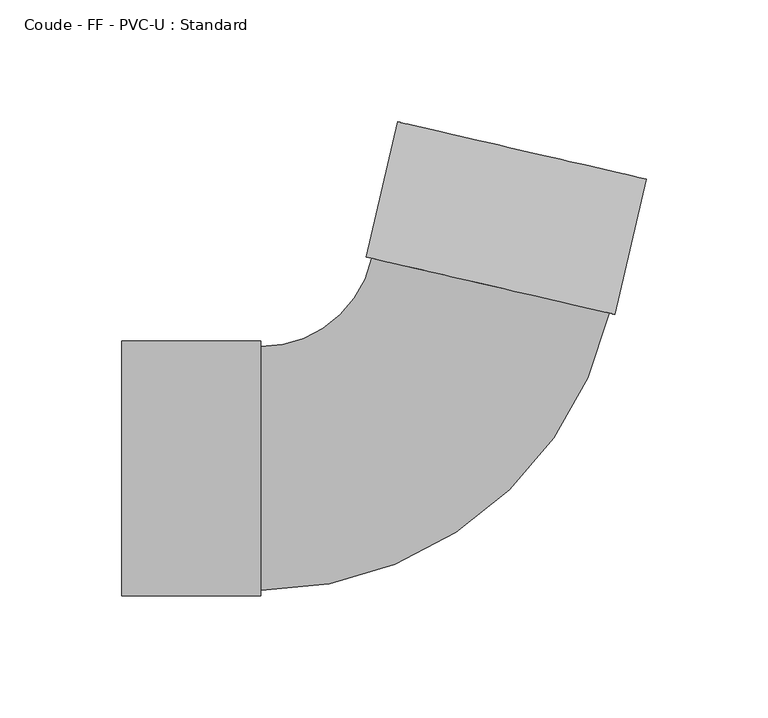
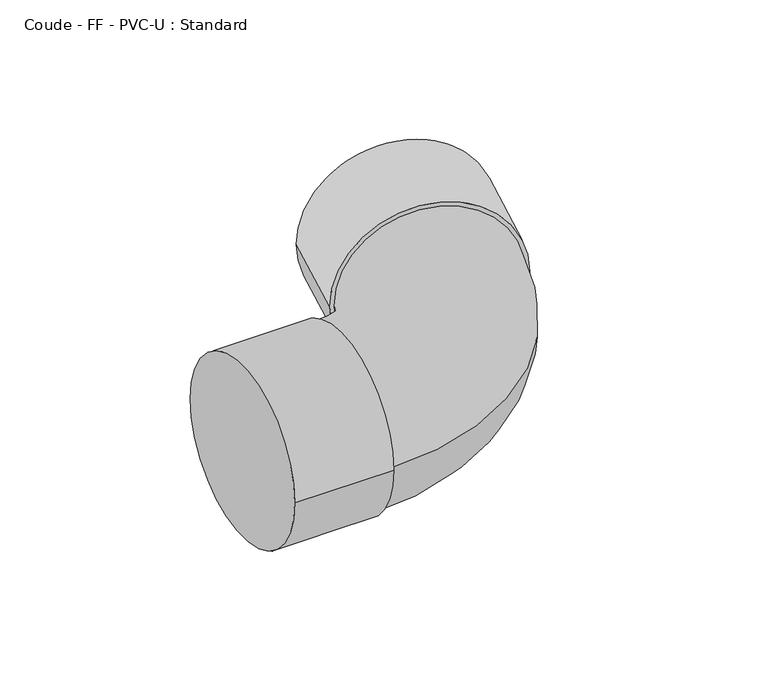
"""IFC4 building model written with IfcOpenShell, lengths in millimetres: pipe fitting geometry, Coude - FF - PVC-U : Standard."""

from ifc_helpers import new_model, si_unit, point, frame, origin, place, context, project, spatial, circle_curve, ellipse_curve, trimmed, source, transform, mapped, element, save
from ifc_brep_helpers import plane_surface, cylinder_surface, revolved_surface, advanced_brep


def coude_ff_pvc_u_standard_caf35bf8(model_context):
    return source(origin(), model_context, "Body", "AdvancedBrep", [
        advanced_brep(
        [(-134.0, -52.3, 0.0), (-134.0, 52.3, 0.0), (-77.0, -52.3, 0.0), (-77.0, 52.3, 0.0), (-77.0, -50.0, 0.0), (-77.0, 50.0, 0.0), (-31.3836973, 86.2789867, 0.0), (66.0497686, 63.7685508, 0.0), (68.2907383, 63.2508108, 0.0), (-33.6246671, 86.7967267, 0.0), (81.1216867, 118.7878863, 0.0), (-20.7937186, 142.3338023, 0.0)],
        [
            (0, 1, circle_curve(frame((-134.0, 0.0, 0.0), z_axis=(-1.0, 0.0, 0.0), x_axis=(0.0, 1.0, 0.0)), 52.3)),
            (1, 0, circle_curve(frame((-134.0, 0.0, 0.0), z_axis=(-1.0, 0.0, 0.0), x_axis=(0.0, 1.0, 0.0)), 52.3)),
            (2, 3, circle_curve(frame((-77.0, 0.0, 0.0), z_axis=(1.0, 0.0, 0.0), x_axis=(0.0, 1.0, 0.0)), 52.3)),
            (3, 2, circle_curve(frame((-77.0, 0.0, 0.0), z_axis=(1.0, 0.0, 0.0), x_axis=(0.0, 1.0, 0.0)), 52.3)),
            (4, 5, circle_curve(frame((-77.0, 0.0, 0.0), z_axis=(-1.0, 0.0, 0.0), x_axis=(0.0, 1.0, 0.0)), 50.0)),
            (5, 4, circle_curve(frame((-77.0, 0.0, 0.0), z_axis=(-1.0, 0.0, 0.0), x_axis=(0.0, 1.0, 0.0)), 50.0)),
            (0, 2),
            (3, 1),
            (6, 5, circle_curve(frame((-77.0, 96.8179, 0.0), z_axis=(0.0, 0.0, -1.0), x_axis=(0.0, -1.0, 0.0)), 46.8179)),
            (4, 7, circle_curve(frame((-77.0, 96.8179, 0.0), z_axis=(0.0, 0.0, 1.0), x_axis=(0.0, -1.0, 0.0)), 146.8179)),
            (7, 6, circle_curve(frame((17.3330356, 75.0237687, 0.0), z_axis=(-0.22510435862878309, -0.9743346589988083, 0.0), x_axis=(-0.9743346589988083, 0.22510435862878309, 0.0)), 50.0)),
            (6, 7, circle_curve(frame((17.3330356, 75.0237687, 0.0), z_axis=(-0.22510435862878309, -0.9743346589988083, 0.0), x_axis=(-0.9743346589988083, 0.22510435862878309, 0.0)), 50.0)),
            (8, 9, circle_curve(frame((17.3330356, 75.0237687, 0.0), z_axis=(-0.22510435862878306, -0.9743346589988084, 0.0), x_axis=(-0.9743346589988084, 0.22510435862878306, 0.0)), 52.3)),
            (9, 8, circle_curve(frame((17.3330356, 75.0237687, 0.0), z_axis=(-0.22510435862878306, -0.9743346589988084, 0.0), x_axis=(-0.9743346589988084, 0.22510435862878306, 0.0)), 52.3)),
            (10, 11, circle_curve(frame((30.1639841, 130.5608443, 0.0), z_axis=(0.22510435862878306, 0.9743346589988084, 0.0), x_axis=(-0.9743346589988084, 0.22510435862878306, 0.0)), 52.3)),
            (11, 10, circle_curve(frame((30.1639841, 130.5608443, 0.0), z_axis=(0.22510435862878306, 0.9743346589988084, 0.0), x_axis=(-0.9743346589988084, 0.22510435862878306, 0.0)), 52.3)),
            (8, 10),
            (11, 9),
        ],
        [
            plane_surface(frame((-134.0, 0.0, 0.0), z_axis=(-1.0, 0.0, 0.0), x_axis=(0.0, 0.0, 1.0))),
            plane_surface(frame((-77.0, 0.0, 0.0), z_axis=(1.0, 0.0, 0.0), x_axis=(0.0, 0.0, 1.0))),
            cylinder_surface(frame((-134.0, 0.0, 0.0), z_axis=(-1.0, 0.0, 0.0), x_axis=(0.0, 1.0, 0.0)), 52.3),
            revolved_surface(trimmed(ellipse_curve(frame((-77.0, 0.0, 0.0), z_axis=(-1.0, 0.0, 0.0), x_axis=(0.0, 1.0, 0.0)), 50.0, 50.0), [point((-77.0, -50.0, 0.0))], [point((-77.0, 50.0, 0.0))], True, "CARTESIAN"), (-77.0, 96.8179, 0.0), (0.0, 0.0, 1.0)),
            revolved_surface(trimmed(ellipse_curve(frame((-77.0, 0.0, 0.0), z_axis=(-1.0, 0.0, 0.0), x_axis=(0.0, 1.0, 0.0)), 50.0, 50.0), [point((-77.0, 50.0, 0.0))], [point((-77.0, -50.0, 0.0))], True, "CARTESIAN"), (-77.0, 96.8179, 0.0), (0.0, 0.0, 1.0)),
            plane_surface(frame((17.3330356, 75.0237687, 0.0), z_axis=(-0.2251043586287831, -0.9743346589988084, 0.0), x_axis=(0.0, 0.0, 1.0))),
            plane_surface(frame((30.1639841, 130.5608443, 0.0), z_axis=(0.2251043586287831, 0.9743346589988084, 0.0), x_axis=(0.0, 0.0, 1.0))),
            cylinder_surface(frame((17.3330356, 75.0237687, 0.0), z_axis=(-0.22510435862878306, -0.9743346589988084, 0.0), x_axis=(-0.9743346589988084, 0.22510435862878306, 0.0)), 52.3),
        ],
        [
            (0, [[1, 2]]),
            (1, [[3, 4], [5, 6]]),
            (2, [[-1, 7, -4, 8]]),
            (2, [[-2, -8, -3, -7]]),
            (3, [[9, -5, 10, 11]]),
            (4, [[-9, 12, -10, -6]]),
            (5, [[13, 14], [-11, -12]]),
            (6, [[15, 16]]),
            (7, [[-13, 17, -16, 18]]),
            (7, [[-14, -18, -15, -17]]),
        ],
    ),
    ])


if __name__ == "__main__":
    model = new_model("IFC4")
    model_context = context("Model", 3, world=origin())
    ifc_project = project(units=[si_unit("LENGTHUNIT", "METRE", prefix="MILLI")], contexts=[model_context])
    site = spatial("IfcSite", under=ifc_project)
    building = spatial("IfcBuilding", under=site)
    placement = place(None, origin())
    coude_ff_pvc_u_standard_shape = coude_ff_pvc_u_standard_caf35bf8(model_context)
    element("IfcPipeFitting", 1, ObjectType="Coude - FF - PVC-U : Standard", at=placement, inside=building, context=model_context, shape_type="MappedRepresentation", body=[
        mapped(coude_ff_pvc_u_standard_shape, transform((0.0, 0.0, 0.0), x_axis=(1.0, 0.0, 0.0), y_axis=(0.0, 1.0, 0.0), z_axis=(0.0, 0.0, 1.0))),
    ])
    save(model, "model.ifc")
